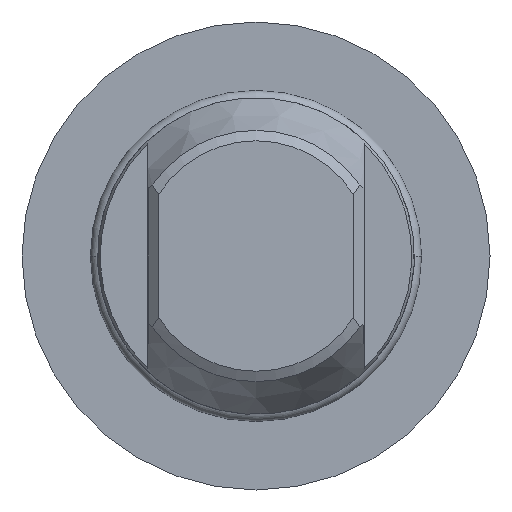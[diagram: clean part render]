
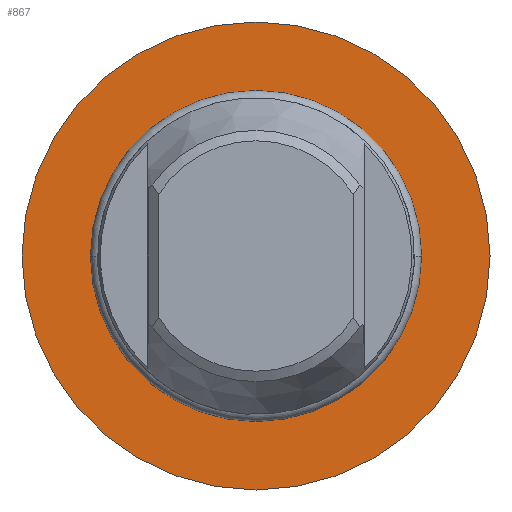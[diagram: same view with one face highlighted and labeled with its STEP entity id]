
A CAD part, front view. The second image highlights one B-rep face of the part: STEP entity #867.
In plain terms, the highlighted planar face has unit normal (0, -1, 0).
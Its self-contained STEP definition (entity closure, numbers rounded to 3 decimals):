
#690=CARTESIAN_POINT('',(0.,21.1,0.));
#691=DIRECTION('',(0.,1.,0.));
#692=DIRECTION('',(0.,0.,-1.));
#693=AXIS2_PLACEMENT_3D('',#690,#691,#692);
#695=CARTESIAN_POINT('',(0.,21.1,0.));
#696=DIRECTION('',(0.,1.,0.));
#697=DIRECTION('',(0.,0.,1.));
#698=AXIS2_PLACEMENT_3D('',#695,#696,#697);
#808=CARTESIAN_POINT('',(0.,21.1,-32.5));
#809=CARTESIAN_POINT('',(0.,21.1,32.5));
#810=VERTEX_POINT('',#808);
#811=VERTEX_POINT('',#809);
#856=CARTESIAN_POINT('',(0.,21.1,0.));
#857=DIRECTION('',(0.,1.,0.));
#858=DIRECTION('',(0.,0.,-1.));
#859=AXIS2_PLACEMENT_3D('',#856,#857,#858);
#860=PLANE('',#859);
#862=ORIENTED_EDGE('',*,*,#861,.T.);
#864=ORIENTED_EDGE('',*,*,#863,.T.);
#865=EDGE_LOOP('',(#862,#864));
#866=FACE_OUTER_BOUND('',#865,.F.);
#867=ADVANCED_FACE('',(#866),#860,.F.);
#694=CIRCLE('',#693,32.5);
#699=CIRCLE('',#698,32.5);
#861=EDGE_CURVE('',#810,#811,#694,.T.);
#863=EDGE_CURVE('',#811,#810,#699,.T.);
